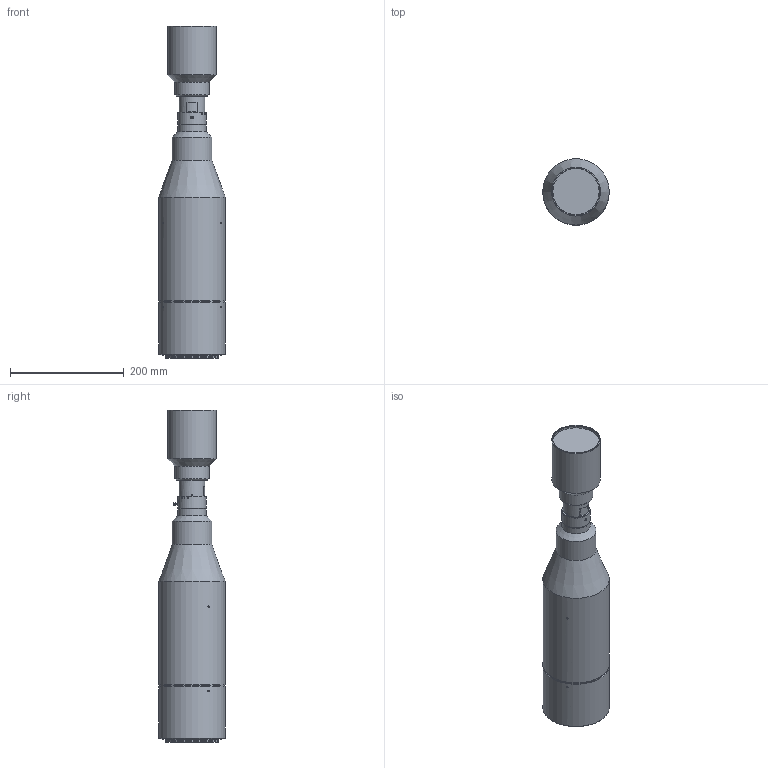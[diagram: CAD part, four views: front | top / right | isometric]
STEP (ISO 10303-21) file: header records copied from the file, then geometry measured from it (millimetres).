
FILE_DESCRIPTION (( 'STEP AP203' ), '1' );
FILE_NAME ('3d_mtl-6582m95-126.STEP', '2017-06-22T07:08:44', ( '' ), ( '' ), 'SwSTEP 2.0', 'SolidWorks 2014', '' );
FILE_SCHEMA (( 'CONFIG_CONTROL_DESIGN' ));
Length unit declared in the file: millimetre
Products named in the file (1): 3d_mtl-6582m95-126
Bounding box: 117 x 117 x 584.54 mm (x, y, z)
Volume: 4347272.7 mm3; surface area: 198310.8 mm2
Topology: 1 solids, 1 shells, 274 faces, 700 edges, 463 vertices
Faces by surface type: cylinder 133, plane 72, bspline 40, cone 29
Full cylindrical faces by diameter (mm): 1.548 x1, 1.6 x2, 2 x3, 2.5 x6, 4 x1, 4.5 x1, 45 x1, 45.3 x1, 45.5 x2, 50 x2, 60 x1, 70 x1, 81.3 x1, 86 x1, 89 x1, 93.92 x1, 95 x1, 105.161 x1, 116 x1, 117 x2
Entity records: 16323 total; most frequent: CARTESIAN_POINT 10693, ORIENTED_EDGE 1246, DIRECTION 848, EDGE_CURVE 623, VERTEX_POINT 439, EDGE_LOOP 362, B_SPLINE_CURVE_WITH_KNOTS 360, AXIS2_PLACEMENT_3D 350
